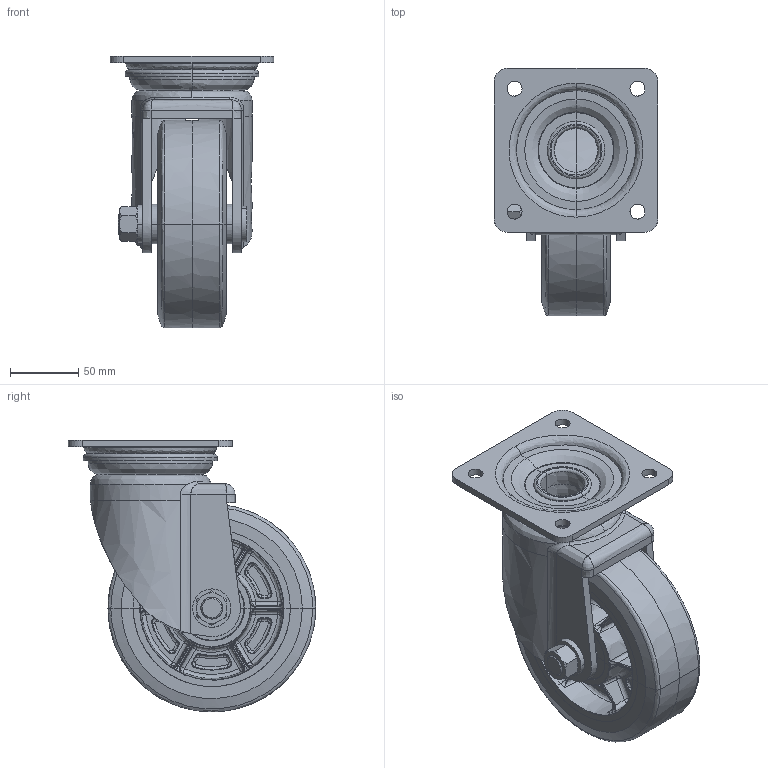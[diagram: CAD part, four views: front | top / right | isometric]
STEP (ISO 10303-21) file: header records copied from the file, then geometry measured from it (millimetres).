
FILE_DESCRIPTION (( 'STEP AP214' ), '1' );
FILE_NAME ('HP-150WJ.STEP', '2023-06-28T06:14:47', ( 'sakai' ), ( 'Hewlett-Packard' ), 'SwSTEP 2.0', 'SolidWorks 2010', '' );
FILE_SCHEMA (( 'AUTOMOTIVE_DESIGN' ));
Length unit declared in the file: millimetre
Products named in the file (6): Part14; HP-150WJ-ALL-1; HP-150WJ-ALL-2; HP-150WJ-ALL-3; HP-150WJ-ALL-4; HP-150WJ
Assembly tree (5 placements, depth 2):
  HP-150WJ
    Part14
    HP-150WJ-ALL-2
    HP-150WJ-ALL-3
    HP-150WJ-ALL-4
    HP-150WJ-ALL-1
Bounding box: 120 x 180.99 x 199 mm (x, y, z)
Volume: 406530.9 mm3; surface area: 277469.4 mm2
Topology: 4 solids, 20 shells, 1025 faces, 3161 edges, 2099 vertices
Faces by surface type: bspline 918, plane 107
Entity records: 118140 total; most frequent: CARTESIAN_POINT 95208, ORIENTED_EDGE 6048, EDGE_CURVE 3109, B_SPLINE_CURVE_WITH_KNOTS 2943, VERTEX_POINT 2099, EDGE_LOOP 1056, FACE_OUTER_BOUND 1025, ADVANCED_FACE 1025
